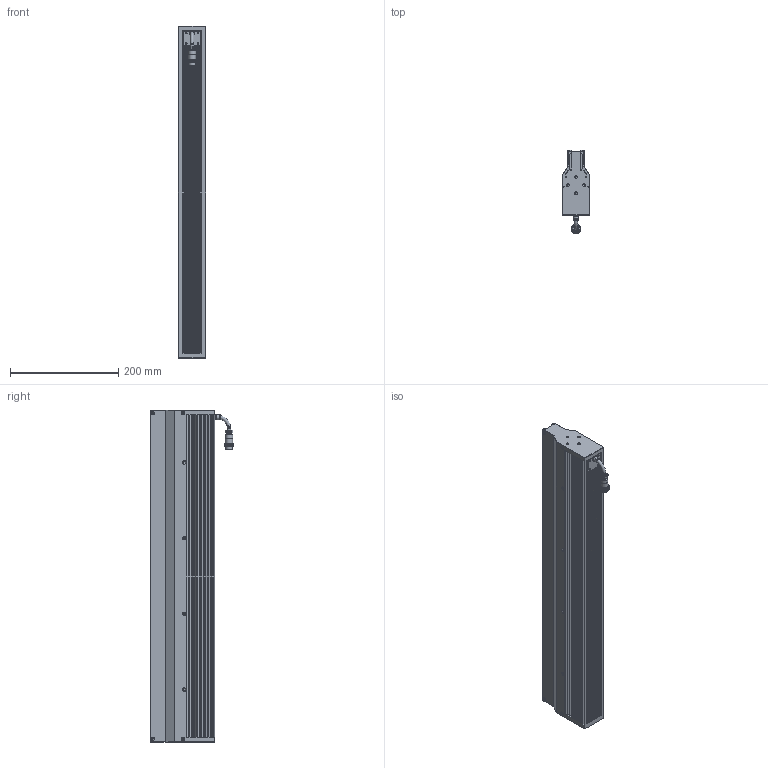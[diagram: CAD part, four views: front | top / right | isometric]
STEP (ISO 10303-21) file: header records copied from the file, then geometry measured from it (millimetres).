
FILE_DESCRIPTION (( 'STEP AP203' ), '1' );
FILE_NAME ('OPT-LSNL614-R-V1.1尨砩芞.STEP', '2025-02-18T03:06:11', ( '' ), ( '' ), 'SwSTEP 2.0', 'SolidWorks 2016', '' );
FILE_SCHEMA (( 'CONFIG_CONTROL_DESIGN' ));
Length unit declared in the file: millimetre
Products named in the file (1): OPT-LSNL614-R-V1.1尨砩芞
Bounding box: 50.01 x 155.15 x 614 mm (x, y, z)
Volume: 2218485.7 mm3; surface area: 730653.9 mm2
Topology: 5 solids, 10 shells, 3604 faces, 8198 edges, 4624 vertices
Faces by surface type: bspline 2059, cylinder 757, plane 743, cone 37, torus 8
Full cylindrical faces by diameter (mm): 0.95 x6, 1.1 x2, 1.4 x2, 2 x4, 2.5 x8, 3 x12, 3.4 x16, 3.5 x4, 5 x8, 6.4 x3, 7.5 x1, 8.6 x1, 9.3 x1, 9.8 x1, 10 x1, 13.2 x1, 14 x1, 16.1 x1
Entity records: 126047 total; most frequent: CARTESIAN_POINT 64696, ORIENTED_EDGE 16052, EDGE_CURVE 8026, DIRECTION 5944, B_SPLINE_CURVE_WITH_KNOTS 5587, VERTEX_POINT 4574, EDGE_LOOP 3794, FACE_OUTER_BOUND 3685
